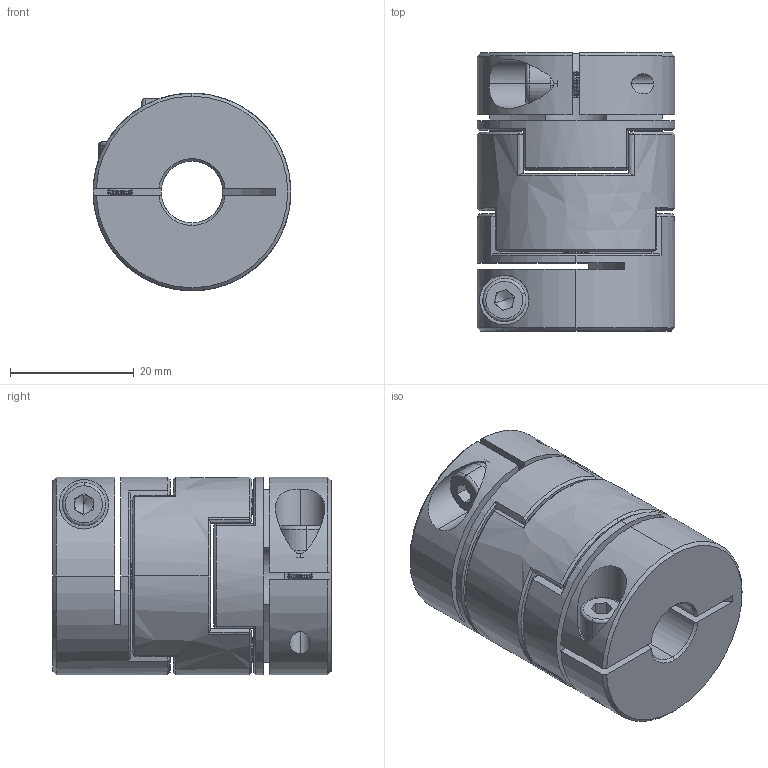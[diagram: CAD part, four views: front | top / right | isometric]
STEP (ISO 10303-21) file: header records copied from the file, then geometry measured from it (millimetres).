
FILE_DESCRIPTION (( 'STEP AP203' ), '1' );
FILE_NAME ('LZ-B-D32L45-10-11.STEP', '2021-10-29T06:43:27', ( '' ), ( '' ), 'SwSTEP 2.0', 'SolidWorks 2018', '' );
FILE_SCHEMA (( 'CONFIG_CONTROL_DESIGN' ));
Length unit declared in the file: millimetre
Products named in the file (1): LZ-B-D32L45-10-11
Bounding box: 32 x 45 x 32 mm (x, y, z)
Volume: 29054.5 mm3; surface area: 13182.3 mm2
Topology: 1 solids, 1 shells, 356 faces, 856 edges, 498 vertices
Faces by surface type: cone 118, cylinder 92, plane 84, bspline 54, torus 8
Entity records: 11145 total; most frequent: CARTESIAN_POINT 3197, ORIENTED_EDGE 1704, DIRECTION 1578, EDGE_CURVE 852, AXIS2_PLACEMENT_3D 619, VERTEX_POINT 498, EDGE_LOOP 382, ADVANCED_FACE 356
